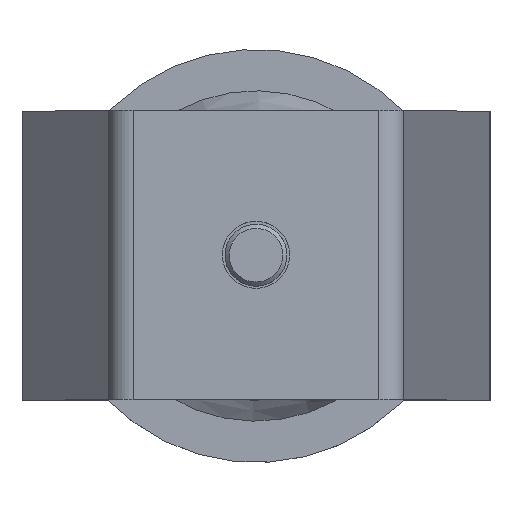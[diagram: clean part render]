
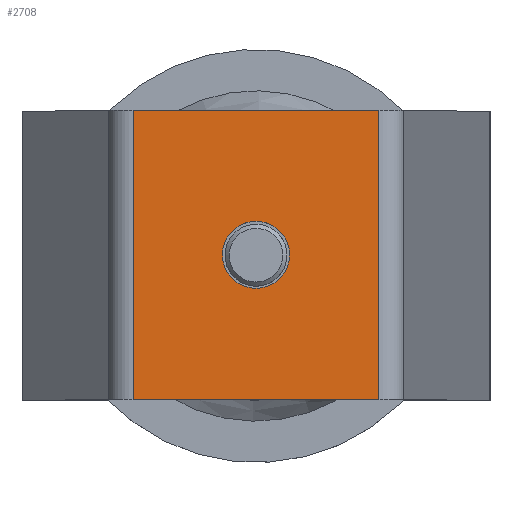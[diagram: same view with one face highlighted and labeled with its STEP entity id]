
A CAD part, top view. The second image highlights one B-rep face of the part: STEP entity #2708.
In plain terms, the highlighted planar face has unit normal (0, 0, 1).
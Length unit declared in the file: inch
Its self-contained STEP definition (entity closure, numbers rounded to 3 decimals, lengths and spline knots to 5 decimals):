
#197=LINE('',#4087,#319);
#198=LINE('',#4089,#320);
#199=LINE('',#4091,#321);
#200=LINE('',#4092,#322);
#319=VECTOR('',#3333,1.75);
#320=VECTOR('',#3334,1.48814);
#321=VECTOR('',#3335,1.75);
#322=VECTOR('',#3336,1.48814);
#446=PLANE('',#2936);
#543=FACE_BOUND('',#824,.T.);
#617=FACE_OUTER_BOUND('',#823,.T.);
#823=EDGE_LOOP('',(#1817,#1818,#1819,#1820));
#824=EDGE_LOOP('',(#1821));
#1053=CIRCLE('',#2915,0.20313);
#1182=VERTEX_POINT('',#4018);
#1201=VERTEX_POINT('',#4080);
#1202=VERTEX_POINT('',#4086);
#1203=VERTEX_POINT('',#4088);
#1204=VERTEX_POINT('',#4090);
#1402=EDGE_CURVE('',#1182,#1182,#1053,.T.);
#1436=EDGE_CURVE('',#1202,#1201,#197,.T.);
#1437=EDGE_CURVE('',#1203,#1202,#198,.T.);
#1438=EDGE_CURVE('',#1203,#1204,#199,.T.);
#1439=EDGE_CURVE('',#1201,#1204,#200,.T.);
#1817=ORIENTED_EDGE('',*,*,#1436,.F.);
#1818=ORIENTED_EDGE('',*,*,#1437,.F.);
#1819=ORIENTED_EDGE('',*,*,#1438,.T.);
#1820=ORIENTED_EDGE('',*,*,#1439,.F.);
#1821=ORIENTED_EDGE('',*,*,#1402,.T.);
#2708=ADVANCED_FACE('',(#617,#543),#446,.F.);
#2915=AXIS2_PLACEMENT_3D('',#4019,#3263,#3264);
#2936=AXIS2_PLACEMENT_3D('',#4085,#3331,#3332);
#3263=DIRECTION('center_axis',(0.,0.,
-1.));
#3264=DIRECTION('ref_axis',(-1.,0.,0.));
#3331=DIRECTION('center_axis',(0.,0.,
-1.));
#3332=DIRECTION('ref_axis',(1.,0.,0.));
#3333=DIRECTION('',(0.,-1.,0.));
#3334=DIRECTION('',(1.,0.,0.));
#3335=DIRECTION('',(0.,-1.,0.));
#3336=DIRECTION('',(-1.,0.,0.));
#4018=CARTESIAN_POINT('',(-0.20313,0.,0.));
#4019=CARTESIAN_POINT('Origin',(0.,0.,
0.));
#4080=CARTESIAN_POINT('',(0.74407,-0.875,0.));
#4085=CARTESIAN_POINT('Origin',(0.,0.,
0.));
#4086=CARTESIAN_POINT('',(0.74407,0.875,0.));
#4087=CARTESIAN_POINT('',(0.74407,0.,0.));
#4088=CARTESIAN_POINT('',(-0.74407,0.875,0.));
#4089=CARTESIAN_POINT('',(5.06766,0.875,0.));
#4090=CARTESIAN_POINT('',(-0.74407,-0.875,0.));
#4091=CARTESIAN_POINT('',(-0.74407,0.,0.));
#4092=CARTESIAN_POINT('',(-5.52219,-0.875,0.));
